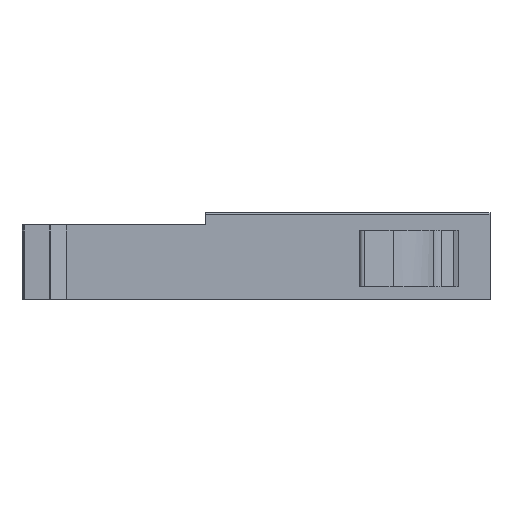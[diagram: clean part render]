
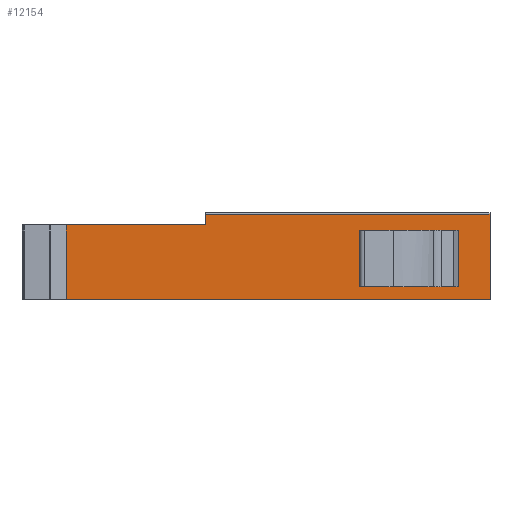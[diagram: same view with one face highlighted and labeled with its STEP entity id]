
A CAD part, left-side view. The second image highlights one B-rep face of the part: STEP entity #12154.
In plain terms, the highlighted planar face has unit normal (-1, 0, 0).
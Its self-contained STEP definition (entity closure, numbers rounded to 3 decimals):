
#12133=AXIS2_PLACEMENT_3D('Plane Axis2P3D',#12130,#12131,#12132) ;
#9551=CARTESIAN_POINT('Vertex',(-52.5,-0.051,-3.95)) ;
#9574=CARTESIAN_POINT('Vertex',(-52.5,-0.051,5.15)) ;
#9577=CARTESIAN_POINT('Line Origine',(-52.5,-0.051,0.6)) ;
#9596=CARTESIAN_POINT('Line Origine',(-52.5,6.663,5.15)) ;
#9600=CARTESIAN_POINT('Vertex',(-52.5,-1.394,5.15)) ;
#10490=CARTESIAN_POINT('Vertex',(-52.5,-1.394,-3.95)) ;
#10511=CARTESIAN_POINT('Line Origine',(-52.5,6.663,-3.95)) ;
#10549=CARTESIAN_POINT('Line Origine',(-52.5,-1.394,0.6)) ;
#10622=CARTESIAN_POINT('Vertex',(-52.5,-6.5,-6.)) ;
#10625=CARTESIAN_POINT('Line Origine',(-52.5,27.651,-6.)) ;
#10629=CARTESIAN_POINT('Vertex',(-52.5,61.802,-6.)) ;
#11548=CARTESIAN_POINT('Vertex',(-52.5,61.802,6.)) ;
#11551=CARTESIAN_POINT('Line Origine',(-52.5,50.601,6.)) ;
#11555=CARTESIAN_POINT('Vertex',(-52.5,39.4,6.)) ;
#11920=CARTESIAN_POINT('Line Origine',(-52.5,17.06,7.7)) ;
#11924=CARTESIAN_POINT('Vertex',(-52.5,-6.5,7.7)) ;
#11926=CARTESIAN_POINT('Vertex',(-52.5,39.4,7.7)) ;
#12065=CARTESIAN_POINT('Line Origine',(-52.5,39.4,6.85)) ;
#12108=CARTESIAN_POINT('Line Origine',(-52.5,-6.5,0.85)) ;
#12130=CARTESIAN_POINT('Axis2P3D Location',(-52.5,-6.5,-6.)) ;
#12135=CARTESIAN_POINT('Line Origine',(-52.5,61.802,0.)) ;
#9578=DIRECTION('Vector Direction',(0.,0.,-1.)) ;
#9597=DIRECTION('Vector Direction',(0.,1.,0.)) ;
#10512=DIRECTION('Vector Direction',(0.,1.,0.)) ;
#10550=DIRECTION('Vector Direction',(0.,0.,1.)) ;
#10626=DIRECTION('Vector Direction',(0.,-1.,0.)) ;
#11552=DIRECTION('Vector Direction',(0.,-1.,0.)) ;
#11921=DIRECTION('Vector Direction',(0.,-1.,0.)) ;
#12066=DIRECTION('Vector Direction',(0.,0.,-1.)) ;
#12109=DIRECTION('Vector Direction',(0.,0.,1.)) ;
#12131=DIRECTION('Axis2P3D Direction',(1.,0.,0.)) ;
#12132=DIRECTION('Axis2P3D XDirection',(0.,1.,0.)) ;
#12136=DIRECTION('Vector Direction',(0.,0.,-1.)) ;
#9579=VECTOR('Line Direction',#9578,1.) ;
#9598=VECTOR('Line Direction',#9597,1.) ;
#10513=VECTOR('Line Direction',#10512,1.) ;
#10551=VECTOR('Line Direction',#10550,1.) ;
#10627=VECTOR('Line Direction',#10626,1.) ;
#11553=VECTOR('Line Direction',#11552,1.) ;
#11922=VECTOR('Line Direction',#11921,1.) ;
#12067=VECTOR('Line Direction',#12066,1.) ;
#12110=VECTOR('Line Direction',#12109,1.) ;
#12137=VECTOR('Line Direction',#12136,1.) ;
#12141=ORIENTED_EDGE('',*,*,#11557,.F.) ;
#12142=ORIENTED_EDGE('',*,*,#12139,.T.) ;
#12143=ORIENTED_EDGE('',*,*,#10631,.T.) ;
#12144=ORIENTED_EDGE('',*,*,#12112,.F.) ;
#12145=ORIENTED_EDGE('',*,*,#11928,.T.) ;
#12146=ORIENTED_EDGE('',*,*,#12069,.T.) ;
#12149=ORIENTED_EDGE('',*,*,#10515,.F.) ;
#12150=ORIENTED_EDGE('',*,*,#9581,.F.) ;
#12151=ORIENTED_EDGE('',*,*,#9602,.T.) ;
#12152=ORIENTED_EDGE('',*,*,#10553,.F.) ;
#12153=FACE_BOUND('',#12148,.T.) ;
#12154=ADVANCED_FACE('PartBody',(#12147,#12153),#12134,.F.) ;
#9581=EDGE_CURVE('',#9575,#9552,#9580,.T.) ;
#9602=EDGE_CURVE('',#9575,#9601,#9599,.F.) ;
#10515=EDGE_CURVE('',#9552,#10491,#10514,.F.) ;
#10553=EDGE_CURVE('',#10491,#9601,#10552,.T.) ;
#10631=EDGE_CURVE('',#10630,#10623,#10628,.T.) ;
#11557=EDGE_CURVE('',#11549,#11556,#11554,.T.) ;
#11928=EDGE_CURVE('',#11925,#11927,#11923,.F.) ;
#12069=EDGE_CURVE('',#11927,#11556,#12068,.T.) ;
#12112=EDGE_CURVE('',#11925,#10623,#12111,.F.) ;
#12139=EDGE_CURVE('',#11549,#10630,#12138,.T.) ;
#12140=EDGE_LOOP('',(#12141,#12142,#12143,#12144,#12145,#12146)) ;
#12148=EDGE_LOOP('',(#12149,#12150,#12151,#12152)) ;
#12147=FACE_OUTER_BOUND('',#12140,.T.) ;
#9580=LINE('Line',#9577,#9579) ;
#9599=LINE('Line',#9596,#9598) ;
#10514=LINE('Line',#10511,#10513) ;
#10552=LINE('Line',#10549,#10551) ;
#10628=LINE('Line',#10625,#10627) ;
#11554=LINE('Line',#11551,#11553) ;
#11923=LINE('Line',#11920,#11922) ;
#12068=LINE('Line',#12065,#12067) ;
#12111=LINE('Line',#12108,#12110) ;
#12138=LINE('Line',#12135,#12137) ;
#12134=PLANE('',#12133) ;
#9552=VERTEX_POINT('',#9551) ;
#9575=VERTEX_POINT('',#9574) ;
#9601=VERTEX_POINT('',#9600) ;
#10491=VERTEX_POINT('',#10490) ;
#10623=VERTEX_POINT('',#10622) ;
#10630=VERTEX_POINT('',#10629) ;
#11549=VERTEX_POINT('',#11548) ;
#11556=VERTEX_POINT('',#11555) ;
#11925=VERTEX_POINT('',#11924) ;
#11927=VERTEX_POINT('',#11926) ;
